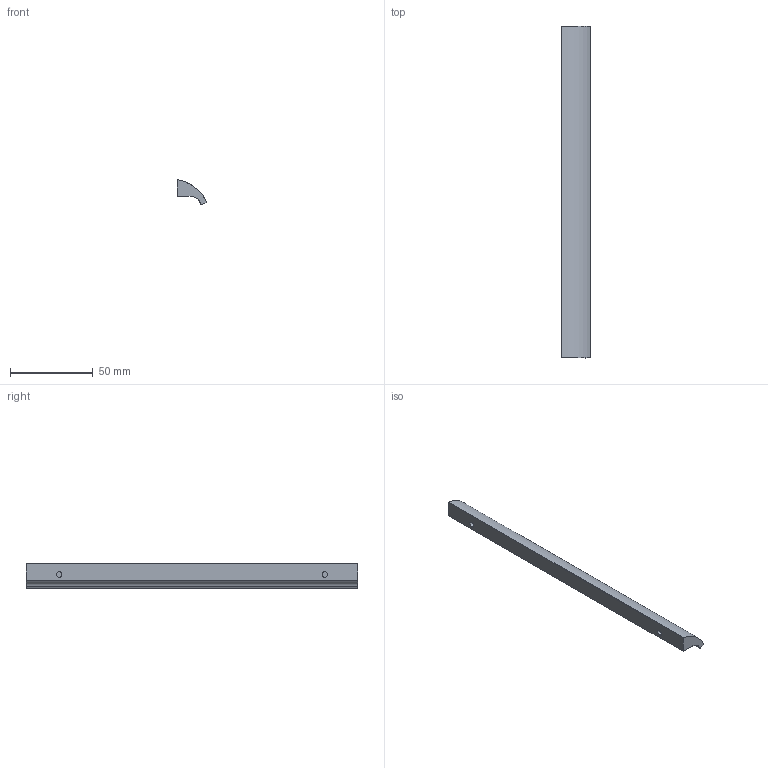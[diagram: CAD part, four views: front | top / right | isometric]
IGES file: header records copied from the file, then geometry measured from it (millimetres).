
Start section: Comment
Global section: file name: 8259.igs; native system: Parasolid(12.0); preprocessor: Pariges 4.4; author: Author; organization: Title; date: 20200903.171831; units: millimetre
Bounding box: 17.5 x 200 x 14.82 mm (x, y, z)
Surface area: 11031.1 mm2 (no closed solid volume)
Topology: 0 solids, 0 shells, 19 faces, 172 edges, 172 vertices
Faces by surface type: revolution 11, extrusion 8
